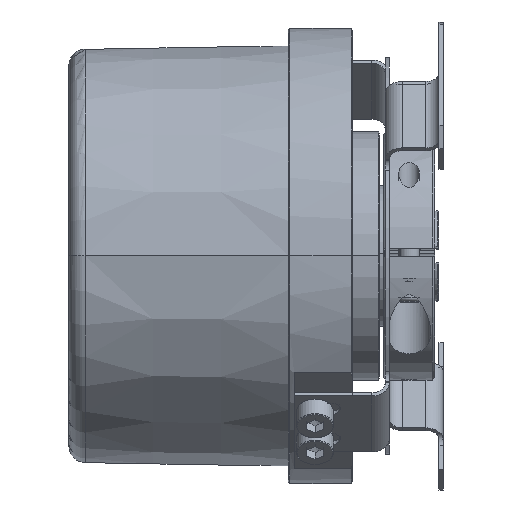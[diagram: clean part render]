
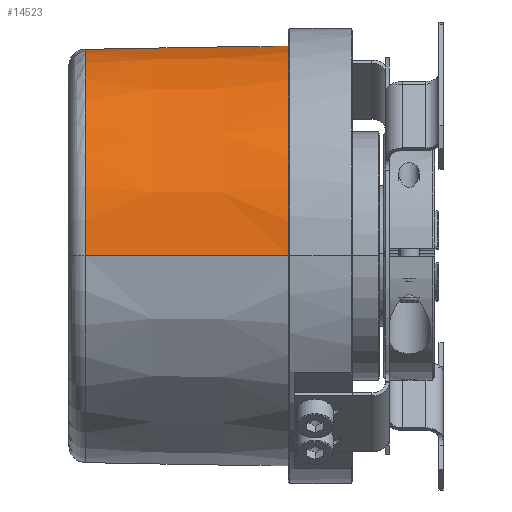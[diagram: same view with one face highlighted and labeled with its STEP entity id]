
A CAD part, top view. The second image highlights one B-rep face of the part: STEP entity #14523.
In plain terms, the highlighted conical face has half-angle 1 degrees and reference radius 25.4 mm.
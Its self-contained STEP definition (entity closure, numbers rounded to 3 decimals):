
#17 = CARTESIAN_POINT ( 'NONE',  ( -18.965, 17.01, -18.284 ) ) ;
#1214 = CARTESIAN_POINT ( 'NONE',  ( -18.965, 17.01, -18.284 ) ) ;
#1330 = DIRECTION ( 'NONE',  ( 0., 0., -1. ) ) ;
#1502 = EDGE_CURVE ( 'NONE', #7563, #4888, #14590, .T. ) ;
#1563 = CARTESIAN_POINT ( 'NONE',  ( 3.926, 16.605, -19.185 ) ) ;
#2845 = AXIS2_PLACEMENT_3D ( 'NONE', #4788, #23041, #6612 ) ;
#3061 = CARTESIAN_POINT ( 'NONE',  ( -19.012, 17.01, -18.283 ) ) ;
#3224 = CARTESIAN_POINT ( 'NONE',  ( 5.5, 0., 0. ) ) ;
#3357 = ORIENTED_EDGE ( 'NONE', *, *, #15138, .T. ) ;
#3372 = VECTOR ( 'NONE', #11374, 1000. ) ;
#4281 = CARTESIAN_POINT ( 'NONE',  ( -3.966, 16.756, -18.871 ) ) ;
#4529 = ORIENTED_EDGE ( 'NONE', *, *, #14362, .T. ) ;
#4759 = B_SPLINE_CURVE_WITH_KNOTS ( 'NONE', 3,
 ( #13384, #4281, #6166, #18853 ),
 .UNSPECIFIED., .F., .F.,
 ( 4, 4 ),
 ( 0., 0.023 ),
 .UNSPECIFIED. ) ;
#4770 = CIRCLE ( 'NONE', #17258, 25.4 ) ;
#4782 = CONICAL_SURFACE ( 'NONE', #2845, 25.4, 0.017 ) ;
#4788 = CARTESIAN_POINT ( 'NONE',  ( 5.5, 0., 0. ) ) ;
#4888 = VERTEX_POINT ( 'NONE', #10345 ) ;
#5032 = DIRECTION ( 'NONE',  ( 0., 0., -1. ) ) ;
#5911 = CARTESIAN_POINT ( 'NONE',  ( 5.5, 15.747, -19.93 ) ) ;
#6166 = CARTESIAN_POINT ( 'NONE',  ( -11.466, 16.88, -18.584 ) ) ;
#6391 = ORIENTED_EDGE ( 'NONE', *, *, #15515, .T. ) ;
#6612 = DIRECTION ( 'NONE',  ( 0., 0., 1. ) ) ;
#7042 = CARTESIAN_POINT ( 'NONE',  ( -19.035, 0., 24.972 ) ) ;
#7563 = VERTEX_POINT ( 'NONE', #5911 ) ;
#7725 = CARTESIAN_POINT ( 'NONE',  ( 5.5, 0., 25.4 ) ) ;
#8420 = CIRCLE ( 'NONE', #18945, 24.972 ) ;
#8763 = CARTESIAN_POINT ( 'NONE',  ( 3.535, 16.636, -19.148 ) ) ;
#10145 = FACE_OUTER_BOUND ( 'NONE', #10230, .T. ) ;
#10230 = EDGE_LOOP ( 'NONE', ( #3357, #4529, #21554, #16554, #6391, #17812 ) ) ;
#10345 = CARTESIAN_POINT ( 'NONE',  ( 3.535, 16.636, -19.148 ) ) ;
#10600 = CARTESIAN_POINT ( 'NONE',  ( 4.299, 16.506, -19.278 ) ) ;
#10679 = CARTESIAN_POINT ( 'NONE',  ( 4.961, 16.195, -19.557 ) ) ;
#11374 = DIRECTION ( 'NONE',  ( 1., 0., 0.017 ) ) ;
#12198 = DIRECTION ( 'NONE',  ( 1., 0., 0. ) ) ;
#12417 = CARTESIAN_POINT ( 'NONE',  ( 5.5, 15.747, -19.93 ) ) ;
#12421 = B_SPLINE_CURVE_WITH_KNOTS ( 'NONE', 3,
 ( #1214, #13928, #3061, #15751 ),
 .UNSPECIFIED., .F., .F.,
 ( 4, 4 ),
 ( 0., 0. ),
 .UNSPECIFIED. ) ;
#13384 = CARTESIAN_POINT ( 'NONE',  ( 3.535, 16.636, -19.148 ) ) ;
#13582 = LINE ( 'NONE', #7725, #3372 ) ;
#13928 = CARTESIAN_POINT ( 'NONE',  ( -18.988, 17.01, -18.283 ) ) ;
#14275 = CARTESIAN_POINT ( 'NONE',  ( 4.473, 16.437, -19.341 ) ) ;
#14362 = EDGE_CURVE ( 'NONE', #16661, #19091, #13582, .T. ) ;
#14523 = ADVANCED_FACE ( 'NONE', ( #10145 ), #4782, .T. ) ;
#14590 = B_SPLINE_CURVE_WITH_KNOTS ( 'NONE', 3,
 ( #12417, #17922, #10679, #14275, #10600, #1563, #23408, #8763 ),
 .UNSPECIFIED., .F., .F.,
 ( 4, 2, 2, 4 ),
 ( 0., 0.001, 0.002, 0.002 ),
 .UNSPECIFIED. ) ;
#15138 = EDGE_CURVE ( 'NONE', #20220, #16661, #8420, .T. ) ;
#15515 = EDGE_CURVE ( 'NONE', #4888, #21669, #4759, .T. ) ;
#15751 = CARTESIAN_POINT ( 'NONE',  ( -19.035, 17.01, -18.282 ) ) ;
#15825 = CARTESIAN_POINT ( 'NONE',  ( 5.5, 0., 25.4 ) ) ;
#15913 = DIRECTION ( 'NONE',  ( -1., 0., 0. ) ) ;
#16554 = ORIENTED_EDGE ( 'NONE', *, *, #1502, .T. ) ;
#16661 = VERTEX_POINT ( 'NONE', #7042 ) ;
#17258 = AXIS2_PLACEMENT_3D ( 'NONE', #3224, #15913, #5032 ) ;
#17812 = ORIENTED_EDGE ( 'NONE', *, *, #23597, .T. ) ;
#17922 = CARTESIAN_POINT ( 'NONE',  ( 5.246, 15.982, -19.739 ) ) ;
#18853 = CARTESIAN_POINT ( 'NONE',  ( -18.965, 17.01, -18.284 ) ) ;
#18945 = AXIS2_PLACEMENT_3D ( 'NONE', #23171, #12198, #1330 ) ;
#19091 = VERTEX_POINT ( 'NONE', #15825 ) ;
#20220 = VERTEX_POINT ( 'NONE', #23473 ) ;
#21554 = ORIENTED_EDGE ( 'NONE', *, *, #22079, .T. ) ;
#21669 = VERTEX_POINT ( 'NONE', #17 ) ;
#22079 = EDGE_CURVE ( 'NONE', #19091, #7563, #4770, .T. ) ;
#23041 = DIRECTION ( 'NONE',  ( 1., 0., 0. ) ) ;
#23171 = CARTESIAN_POINT ( 'NONE',  ( -19.035, 0., 0. ) ) ;
#23408 = CARTESIAN_POINT ( 'NONE',  ( 3.734, 16.633, -19.155 ) ) ;
#23473 = CARTESIAN_POINT ( 'NONE',  ( -19.035, 17.01, -18.282 ) ) ;
#23597 = EDGE_CURVE ( 'NONE', #21669, #20220, #12421, .T. ) ;
